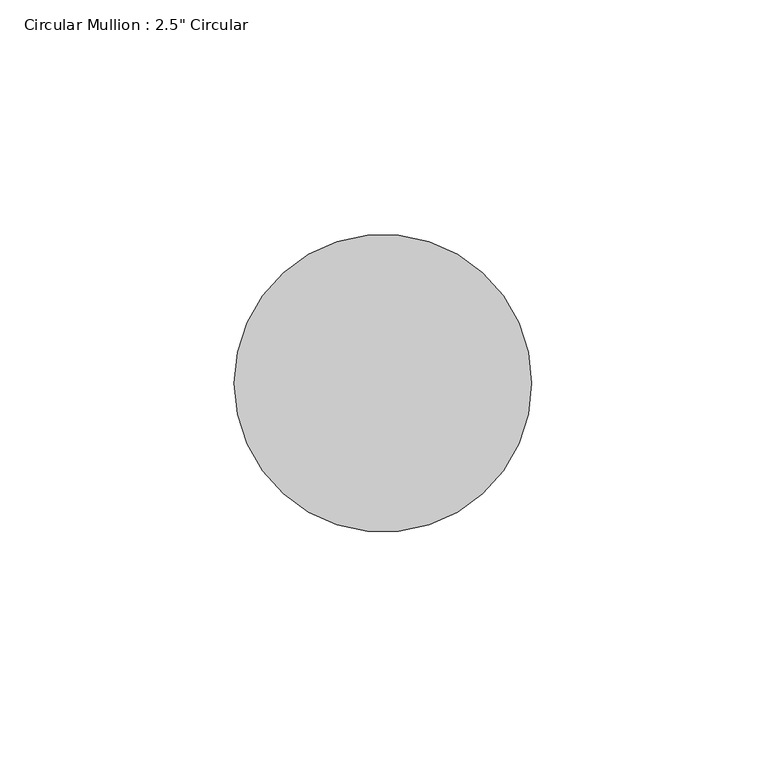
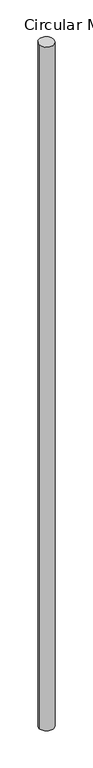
"""IFC4 building model written with IfcOpenShell, lengths in millimetres: member geometry."""

from ifc_helpers import new_model, si_unit, frame, origin, origin_with_axes, place, context, project, spatial, ellipse_curve, source, transform, mapped, element, save
from ifc_brep_helpers import plane_surface, cylinder_surface, advanced_brep


def member_17676bb0(model_context):
    return source(origin(), model_context, "Body", "AdvancedBrep", [
        advanced_brep(
        [(-31.75, 0.0, 0.09689), (31.75, 0.0, -0.09689), (31.75, 0.0, -3064.7248102), (-31.75, 0.0, -3065.0224319)],
        [
            (0, 1, ellipse_curve(frame((0.0, 0.0, 0.0), z_axis=(-0.003047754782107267, 0.05043848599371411, -0.998722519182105), x_axis=(-0.06023812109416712, 0.9969042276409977, 0.05053048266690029)), 31.7906119, 31.75)),
            (1, 2),
            (2, 3, ellipse_curve(frame((0.0, 0.0, -3064.8736211), z_axis=(-0.0046819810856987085, 0.045823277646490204, 0.998938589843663), x_axis=(0.1015376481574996, -0.9937647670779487, 0.04606184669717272)), 31.7837356, 31.75)),
            (3, 0),
            (1, 0, ellipse_curve(frame((0.0, 0.0, 0.0), z_axis=(-0.003047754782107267, 0.05043848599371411, -0.998722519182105), x_axis=(-0.06023812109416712, 0.9969042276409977, 0.05053048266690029)), 31.7906119, 31.75)),
            (3, 2, ellipse_curve(frame((0.0, 0.0, -3064.8736211), z_axis=(-0.0046819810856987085, 0.045823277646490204, 0.998938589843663), x_axis=(0.1015376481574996, -0.9937647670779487, 0.04606184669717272)), 31.7837356, 31.75)),
        ],
        [
            cylinder_surface(origin_with_axes(), 31.75),
            plane_surface(frame((304.2450758, 18.3840646, 0.0), z_axis=(0.003047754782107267, -0.05043848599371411, 0.998722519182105), x_axis=(0.06023812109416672, -0.996904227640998, -0.050530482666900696))),
            plane_surface(frame((303.2213432, 30.9815593, -3064.8736211), z_axis=(0.0046819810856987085, -0.045823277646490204, -0.998938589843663), x_axis=(0.10153764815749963, -0.9937647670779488, 0.04606184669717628))),
        ],
        [
            (0, [[1, 2, 3, 4]]),
            (0, [[5, -4, 6, -2]]),
            (1, [[-1, -5]]),
            (2, [[-6, -3]]),
        ],
    ),
    ])


if __name__ == "__main__":
    model = new_model("IFC4")
    model_context = context("Model", 3, world=origin())
    ifc_project = project(units=[si_unit("LENGTHUNIT", "METRE", prefix="MILLI")], contexts=[model_context])
    site = spatial("IfcSite", under=ifc_project)
    building = spatial("IfcBuilding", under=site)
    placement = place(None, origin())
    member_shape = member_17676bb0(model_context)
    element("IfcMember", 1, ObjectType="Circular Mullion : 2.5\" Circular", at=placement, inside=building, context=model_context, shape_type="MappedRepresentation", body=[
        mapped(member_shape, transform((0.0, 0.0, 0.0), x_axis=(1.0, 0.0, 0.0), y_axis=(0.0, 1.0, 0.0), z_axis=(0.0, 0.0, 1.0))),
    ])
    save(model, "model.ifc")
